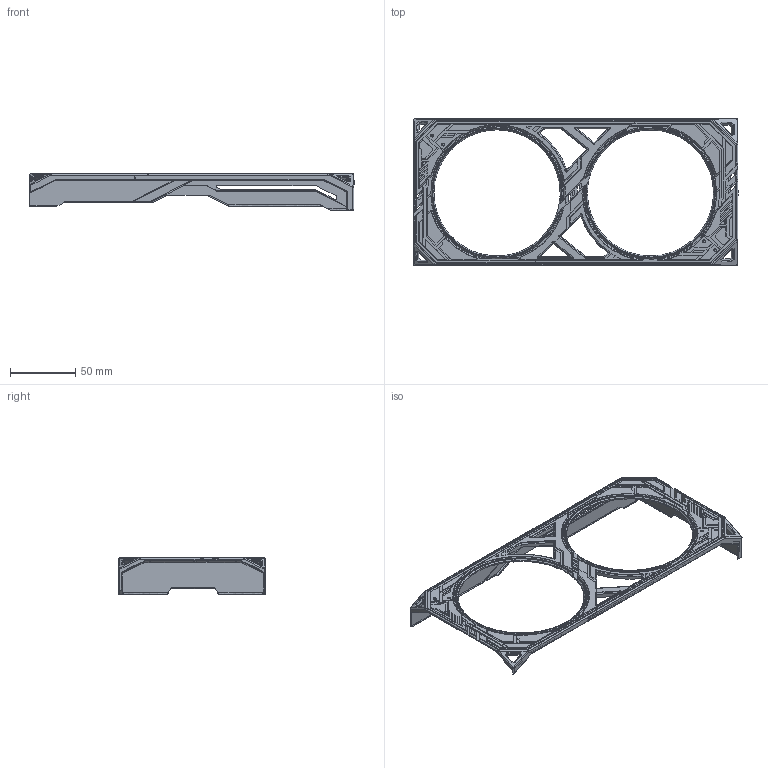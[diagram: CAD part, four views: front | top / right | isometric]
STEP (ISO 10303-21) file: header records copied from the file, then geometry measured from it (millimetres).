
FILE_DESCRIPTION((''),'2;1');
FILE_NAME('F306_MAKER_COVER','2023-11-08T09:40:08',('Kate'),(''),'CREO PARAMETRIC BY PTC INC, 2020281','CREO PARAMETRIC BY PTC INC, 2020281','');
FILE_SCHEMA(('CONFIG_CONTROL_DESIGN'));
Products named in the file (1): F306_MAKER_COVER
Bounding box: 249.92 x 112.9 x 28 mm (x, y, z)
Volume: 47230.7 mm3; surface area: 51064.7 mm2
Topology: 2 solids, 2 shells, 1518 faces, 4082 edges, 2567 vertices
Faces by surface type: plane 903, cylinder 344, bspline 160, torus 44, cone 37, sphere 20, extrusion 10
Entity records: 54941 total; most frequent: CARTESIAN_POINT 18898, ORIENTED_EDGE 8158, DIRECTION 6572, EDGE_CURVE 4079, VERTEX_POINT 2567, VECTOR 2528, LINE 2518, AXIS2_PLACEMENT_3D 2022
